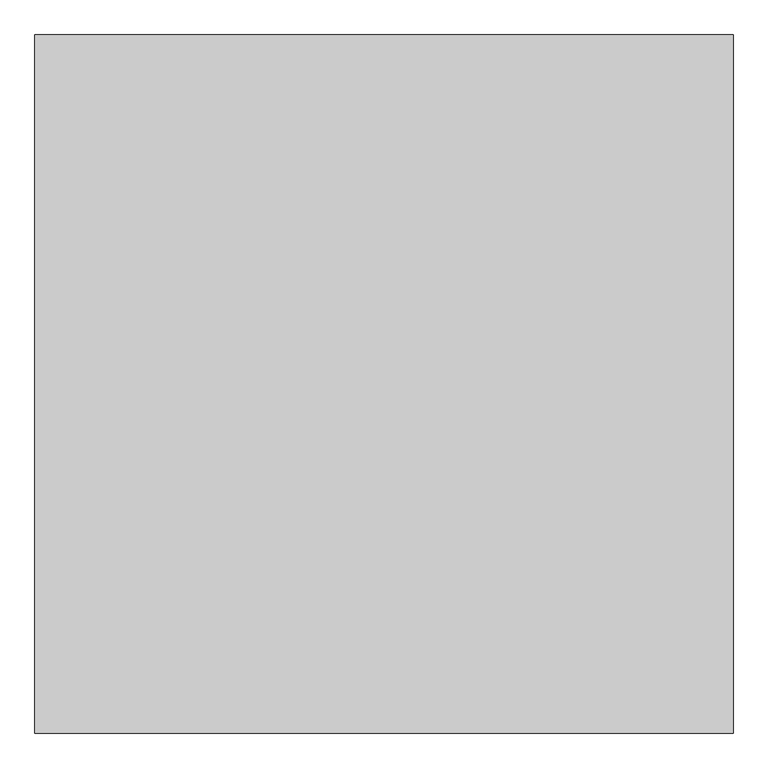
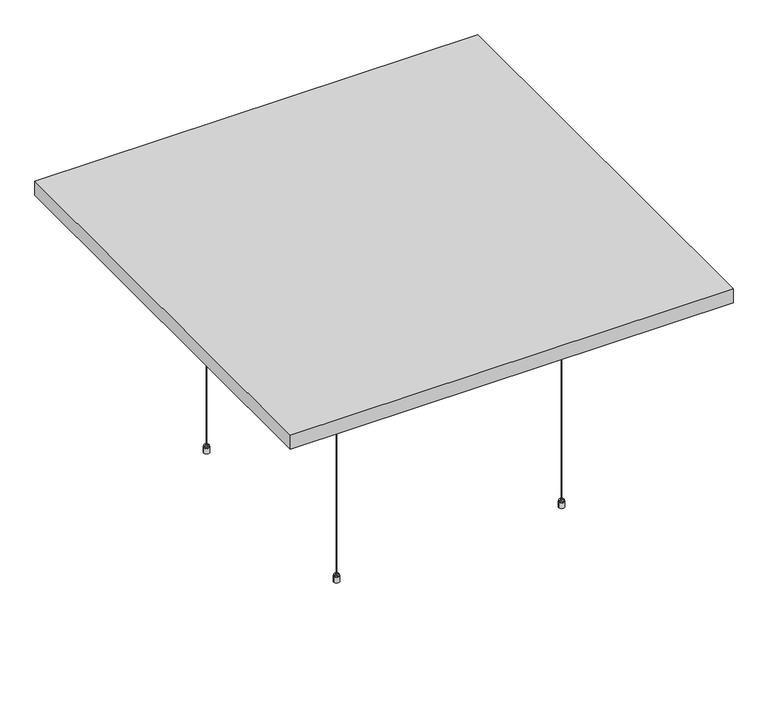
"""IFC4 building model written with IfcOpenShell, lengths in millimetres: proxy geometry, OWA Selecta : Selecta one."""

from ifc_helpers import new_model, si_unit, point, frame, frame_2d, origin, place, context, project, spatial, polyline, circle_curve, trimmed, segment, composite_curve, outline, extrude, source, transform, mapped, element, save
from ifc_brep_helpers import plane_surface, cylinder_surface, revolved_surface, advanced_brep


def specialty_equipment_e558b074(model_context):
    return source(origin(), model_context, "Body", "SolidModel", [
        advanced_brep(
        [(-738.5, -305.0, 0.0), (-746.2406175, -305.0, 0.0), (-730.7593825, -305.0, 0.0), (-746.2406175, -305.0, 15.0), (-730.7593825, -305.0, 15.0), (-745.3156175, -305.0, 15.0), (-731.6843825, -305.0, 15.0), (-745.3156175, -305.0, 19.0), (-731.6843825, -305.0, 19.0), (-740.5656175, -305.0, 19.0), (-736.4343825, -305.0, 19.0), (-740.5656175, -305.0, 22.546183), (-736.4343825, -305.0, 22.546183), (-738.5, -305.0, 22.546183)],
        [
            (0, 1),
            (1, 2, circle_curve(frame((-738.5, -305.0, 0.0), z_axis=(0.0, 0.0, -1.0), x_axis=(-1.0, 0.0, 0.0)), 7.7406175)),
            (2, 0),
            (2, 1, circle_curve(frame((-738.5, -305.0, 0.0), z_axis=(0.0, 0.0, -1.0), x_axis=(-1.0, 0.0, 0.0)), 7.7406175)),
            (1, 3),
            (3, 4, circle_curve(frame((-738.5, -305.0, 15.0), z_axis=(0.0, 0.0, -1.0), x_axis=(-1.0, 0.0, 0.0)), 7.7406175)),
            (4, 2),
            (4, 3, circle_curve(frame((-738.5, -305.0, 15.0), z_axis=(0.0, 0.0, -1.0), x_axis=(-1.0, 0.0, 0.0)), 7.7406175)),
            (3, 5),
            (5, 6, circle_curve(frame((-738.5, -305.0, 15.0), z_axis=(0.0, 0.0, -1.0), x_axis=(-1.0, 0.0, 0.0)), 6.8156175)),
            (6, 4),
            (6, 5, circle_curve(frame((-738.5, -305.0, 15.0), z_axis=(0.0, 0.0, -1.0), x_axis=(-1.0, 0.0, 0.0)), 6.8156175)),
            (5, 7),
            (7, 8, circle_curve(frame((-738.5, -305.0, 19.0), z_axis=(0.0, 0.0, -1.0), x_axis=(-1.0, 0.0, 0.0)), 6.8156175)),
            (8, 6),
            (8, 7, circle_curve(frame((-738.5, -305.0, 19.0), z_axis=(0.0, 0.0, -1.0), x_axis=(-1.0, 0.0, 0.0)), 6.8156175)),
            (7, 9),
            (9, 10, circle_curve(frame((-738.5, -305.0, 19.0), z_axis=(0.0, 0.0, -1.0), x_axis=(-1.0, 0.0, 0.0)), 2.0656175)),
            (10, 8),
            (10, 9, circle_curve(frame((-738.5, -305.0, 19.0), z_axis=(0.0, 0.0, -1.0), x_axis=(-1.0, 0.0, 0.0)), 2.0656175)),
            (9, 11),
            (11, 12, circle_curve(frame((-738.5, -305.0, 22.546183), z_axis=(0.0, 0.0, -1.0), x_axis=(-1.0, 0.0, 0.0)), 2.0656175)),
            (12, 10),
            (12, 11, circle_curve(frame((-738.5, -305.0, 22.546183), z_axis=(0.0, 0.0, -1.0), x_axis=(-1.0, 0.0, 0.0)), 2.0656175)),
            (11, 13),
            (13, 12),
        ],
        [
            plane_surface(frame((-738.5, -305.0, 0.0), z_axis=(0.0, 0.0, -1.0), x_axis=(-1.0, 0.0, 0.0))),
            cylinder_surface(frame((-738.5, -305.0, -10.0), z_axis=(0.0, 0.0, -1.0), x_axis=(-1.0, 0.0, 0.0)), 7.7406175),
            plane_surface(frame((-738.5, -305.0, 15.0), z_axis=(0.0, 0.0, 1.0), x_axis=(-1.0, 0.0, 0.0))),
            cylinder_surface(frame((-738.5, -305.0, -10.0), z_axis=(0.0, 0.0, -1.0), x_axis=(-1.0, 0.0, 0.0)), 6.8156175),
            plane_surface(frame((-738.5, -305.0, 19.0), z_axis=(0.0, 0.0, 1.0), x_axis=(-1.0, 0.0, 0.0))),
            cylinder_surface(frame((-738.5, -305.0, -10.0), z_axis=(0.0, 0.0, -1.0), x_axis=(-1.0, 0.0, 0.0)), 2.0656175),
            plane_surface(frame((-738.5, -305.0, 22.546183), z_axis=(0.0, 0.0, 1.0), x_axis=(-1.0, 0.0, 0.0))),
        ],
        [
            (0, [[1, 2, 3]]),
            (0, [[-3, 4, -1]]),
            (1, [[-2, 5, 6, 7]]),
            (1, [[-4, -7, 8, -5]]),
            (2, [[-6, 9, 10, 11]]),
            (2, [[-8, -11, 12, -9]]),
            (3, [[-10, 13, 14, 15]]),
            (3, [[-12, -15, 16, -13]]),
            (4, [[-14, 17, 18, 19]]),
            (4, [[-16, -19, 20, -17]]),
            (5, [[-18, 21, 22, 23]]),
            (5, [[-20, -23, 24, -21]]),
            (6, [[-22, 25, 26]]),
            (6, [[-24, -26, -25]]),
        ],
    ),
        advanced_brep(
        [(-736.2615389, -305.0, 628.8211737), (-740.7384611, -305.0, 628.8211737), (-740.8660547, -305.0, 632.8711737), (-736.1339453, -305.0, 632.8711737), (-743.3660547, -305.0, 632.8711737), (-733.6339453, -305.0, 632.8711737), (-743.3660547, -305.0, 658.1211737), (-733.6339453, -305.0, 658.1211737), (-754.3660547, -305.0, 658.1211737), (-722.6339453, -305.0, 658.1211737), (-754.3660547, -305.0, 660.0), (-722.6339453, -305.0, 660.0), (-738.5, -305.0, 660.0), (-738.5, -305.0, 628.8211737)],
        [
            (0, 1, circle_curve(frame((-738.5, -305.0, 628.8211737), z_axis=(0.0, 0.0, 1.0), x_axis=(-1.0, 0.0, 0.0)), 2.2384611)),
            (1, 2),
            (2, 3, circle_curve(frame((-738.5, -305.0, 632.8711737), z_axis=(0.0, 0.0, -1.0), x_axis=(-1.0, 0.0, 0.0)), 2.3660547)),
            (3, 0),
            (1, 0, circle_curve(frame((-738.5, -305.0, 628.8211737), z_axis=(0.0, 0.0, 1.0), x_axis=(-1.0, 0.0, 0.0)), 2.2384611)),
            (3, 2, circle_curve(frame((-738.5, -305.0, 632.8711737), z_axis=(0.0, 0.0, -1.0), x_axis=(-1.0, 0.0, 0.0)), 2.3660547)),
            (2, 4),
            (4, 5, circle_curve(frame((-738.5, -305.0, 632.8711737), z_axis=(0.0, 0.0, -1.0), x_axis=(-1.0, 0.0, 0.0)), 4.8660547)),
            (5, 3),
            (5, 4, circle_curve(frame((-738.5, -305.0, 632.8711737), z_axis=(0.0, 0.0, -1.0), x_axis=(-1.0, 0.0, 0.0)), 4.8660547)),
            (4, 6),
            (6, 7, circle_curve(frame((-738.5, -305.0, 658.1211737), z_axis=(0.0, 0.0, -1.0), x_axis=(-1.0, 0.0, 0.0)), 4.8660547)),
            (7, 5),
            (7, 6, circle_curve(frame((-738.5, -305.0, 658.1211737), z_axis=(0.0, 0.0, -1.0), x_axis=(-1.0, 0.0, 0.0)), 4.8660547)),
            (6, 8),
            (8, 9, circle_curve(frame((-738.5, -305.0, 658.1211737), z_axis=(0.0, 0.0, -1.0), x_axis=(-1.0, 0.0, 0.0)), 15.8660547)),
            (9, 7),
            (9, 8, circle_curve(frame((-738.5, -305.0, 658.1211737), z_axis=(0.0, 0.0, -1.0), x_axis=(-1.0, 0.0, 0.0)), 15.8660547)),
            (8, 10),
            (10, 11, circle_curve(frame((-738.5, -305.0, 660.0), z_axis=(0.0, 0.0, -1.0), x_axis=(-1.0, 0.0, 0.0)), 15.8660547)),
            (11, 9),
            (11, 10, circle_curve(frame((-738.5, -305.0, 660.0), z_axis=(0.0, 0.0, -1.0), x_axis=(-1.0, 0.0, 0.0)), 15.8660547)),
            (10, 12),
            (12, 11),
            (13, 1),
            (0, 13),
        ],
        [
            revolved_surface(polyline([(-740.8660547, -305.0, 632.8711737), (-740.7384611, -305.0, 628.8211737)]), (-738.5, -305.0, 661.8401096), (0.0, 0.0, -1.0)),
            plane_surface(frame((-738.5, -305.0, 632.8711737), z_axis=(0.0, 0.0, -1.0), x_axis=(-1.0, 0.0, 0.0))),
            cylinder_surface(frame((-738.5, -305.0, 661.8401096), z_axis=(0.0, 0.0, -1.0), x_axis=(-1.0, 0.0, 0.0)), 4.8660547),
            plane_surface(frame((-738.5, -305.0, 658.1211737), z_axis=(0.0, 0.0, -1.0), x_axis=(-1.0, 0.0, 0.0))),
            cylinder_surface(frame((-738.5, -305.0, 661.8401096), z_axis=(0.0, 0.0, -1.0), x_axis=(-1.0, 0.0, 0.0)), 15.8660547),
            plane_surface(frame((-738.5, -305.0, 660.0), z_axis=(0.0, 0.0, 1.0), x_axis=(-1.0, 0.0, 0.0))),
            plane_surface(frame((-738.5, -305.0, 628.8211737), z_axis=(0.0, 0.0, -1.0), x_axis=(-1.0, 0.0, 0.0))),
        ],
        [
            (0, [[1, 2, 3, 4]]),
            (0, [[5, -4, 6, -2]]),
            (1, [[-3, 7, 8, 9]]),
            (1, [[-6, -9, 10, -7]]),
            (2, [[-8, 11, 12, 13]]),
            (2, [[-10, -13, 14, -11]]),
            (3, [[-12, 15, 16, 17]]),
            (3, [[-14, -17, 18, -15]]),
            (4, [[-16, 19, 20, 21]]),
            (4, [[-18, -21, 22, -19]]),
            (5, [[-20, 23, 24]]),
            (5, [[-22, -24, -23]]),
            (6, [[25, -1, 26]]),
            (6, [[-26, -5, -25]]),
        ],
    ),
        extrude(outline(composite_curve([segment(trimmed(circle_curve(frame_2d((-738.5, -305.0)), 1.0), [point((-739.5, -305.0))], [point((-737.5, -305.0))], False, "CARTESIAN"), True, "CONTINUOUS"), segment(trimmed(circle_curve(frame_2d((-738.5, -305.0)), 1.0), [point((-737.5, -305.0))], [point((-739.5, -305.0))], False, "CARTESIAN"), True, "CONTINUOUS")], self_intersect=False)), frame((0.0, 0.0, 22.546183), z_axis=(0.0, 0.0, 1.0), x_axis=(1.0, 0.0, 0.0)), (0.0, 0.0, 1.0), 606.2749908),
        advanced_brep(
        [(-128.5, -305.0, 0.0), (-136.2406175, -305.0, 0.0), (-120.7593825, -305.0, 0.0), (-136.2406175, -305.0, 15.0), (-120.7593825, -305.0, 15.0), (-135.3156175, -305.0, 15.0), (-121.6843825, -305.0, 15.0), (-135.3156175, -305.0, 19.0), (-121.6843825, -305.0, 19.0), (-130.5656175, -305.0, 19.0), (-126.4343825, -305.0, 19.0), (-130.5656175, -305.0, 22.546183), (-126.4343825, -305.0, 22.546183), (-128.5, -305.0, 22.546183)],
        [
            (0, 1),
            (1, 2, circle_curve(frame((-128.5, -305.0, 0.0), z_axis=(0.0, 0.0, -1.0), x_axis=(1.0, 0.0, 0.0)), 7.7406175)),
            (2, 0),
            (2, 1, circle_curve(frame((-128.5, -305.0, 0.0), z_axis=(0.0, 0.0, -1.0), x_axis=(1.0, 0.0, 0.0)), 7.7406175)),
            (1, 3),
            (3, 4, circle_curve(frame((-128.5, -305.0, 15.0), z_axis=(0.0, 0.0, -1.0), x_axis=(1.0, 0.0, 0.0)), 7.7406175)),
            (4, 2),
            (4, 3, circle_curve(frame((-128.5, -305.0, 15.0), z_axis=(0.0, 0.0, -1.0), x_axis=(1.0, 0.0, 0.0)), 7.7406175)),
            (3, 5),
            (5, 6, circle_curve(frame((-128.5, -305.0, 15.0), z_axis=(0.0, 0.0, -1.0), x_axis=(1.0, 0.0, 0.0)), 6.8156175)),
            (6, 4),
            (6, 5, circle_curve(frame((-128.5, -305.0, 15.0), z_axis=(0.0, 0.0, -1.0), x_axis=(1.0, 0.0, 0.0)), 6.8156175)),
            (5, 7),
            (7, 8, circle_curve(frame((-128.5, -305.0, 19.0), z_axis=(0.0, 0.0, -1.0), x_axis=(1.0, 0.0, 0.0)), 6.8156175)),
            (8, 6),
            (8, 7, circle_curve(frame((-128.5, -305.0, 19.0), z_axis=(0.0, 0.0, -1.0), x_axis=(1.0, 0.0, 0.0)), 6.8156175)),
            (7, 9),
            (9, 10, circle_curve(frame((-128.5, -305.0, 19.0), z_axis=(0.0, 0.0, -1.0), x_axis=(1.0, 0.0, 0.0)), 2.0656175)),
            (10, 8),
            (10, 9, circle_curve(frame((-128.5, -305.0, 19.0), z_axis=(0.0, 0.0, -1.0), x_axis=(1.0, 0.0, 0.0)), 2.0656175)),
            (9, 11),
            (11, 12, circle_curve(frame((-128.5, -305.0, 22.546183), z_axis=(0.0, 0.0, -1.0), x_axis=(1.0, 0.0, 0.0)), 2.0656175)),
            (12, 10),
            (12, 11, circle_curve(frame((-128.5, -305.0, 22.546183), z_axis=(0.0, 0.0, -1.0), x_axis=(1.0, 0.0, 0.0)), 2.0656175)),
            (11, 13),
            (13, 12),
        ],
        [
            plane_surface(frame((-128.5, -305.0, 0.0), z_axis=(0.0, 0.0, -1.0), x_axis=(1.0, 0.0, 0.0))),
            cylinder_surface(frame((-128.5, -305.0, -10.0), z_axis=(0.0, 0.0, -1.0), x_axis=(1.0, 0.0, 0.0)), 7.7406175),
            plane_surface(frame((-128.5, -305.0, 15.0), z_axis=(0.0, 0.0, 1.0), x_axis=(1.0, 0.0, 0.0))),
            cylinder_surface(frame((-128.5, -305.0, -10.0), z_axis=(0.0, 0.0, -1.0), x_axis=(1.0, 0.0, 0.0)), 6.8156175),
            plane_surface(frame((-128.5, -305.0, 19.0), z_axis=(0.0, 0.0, 1.0), x_axis=(1.0, 0.0, 0.0))),
            cylinder_surface(frame((-128.5, -305.0, -10.0), z_axis=(0.0, 0.0, -1.0), x_axis=(1.0, 0.0, 0.0)), 2.0656175),
            plane_surface(frame((-128.5, -305.0, 22.546183), z_axis=(0.0, 0.0, 1.0), x_axis=(1.0, 0.0, 0.0))),
        ],
        [
            (0, [[1, 2, 3]]),
            (0, [[-3, 4, -1]]),
            (1, [[5, 6, 7, -2]]),
            (1, [[-7, 8, -5, -4]]),
            (2, [[9, 10, 11, -6]]),
            (2, [[-11, 12, -9, -8]]),
            (3, [[13, 14, 15, -10]]),
            (3, [[-15, 16, -13, -12]]),
            (4, [[17, 18, 19, -14]]),
            (4, [[-19, 20, -17, -16]]),
            (5, [[21, 22, 23, -18]]),
            (5, [[-23, 24, -21, -20]]),
            (6, [[25, 26, -22]]),
            (6, [[-26, -25, -24]]),
        ],
    ),
        advanced_brep(
        [(-130.7384611, -305.0, 628.8211737), (-130.8660547, -305.0, 632.8711737), (-126.1339453, -305.0, 632.8711737), (-126.2615389, -305.0, 628.8211737), (-133.3660547, -305.0, 632.8711737), (-123.6339453, -305.0, 632.8711737), (-133.3660547, -305.0, 658.1211737), (-123.6339453, -305.0, 658.1211737), (-144.3660547, -305.0, 658.1211737), (-112.6339453, -305.0, 658.1211737), (-144.3660547, -305.0, 660.0), (-112.6339453, -305.0, 660.0), (-128.5, -305.0, 660.0), (-128.5, -305.0, 628.8211737)],
        [
            (0, 1),
            (1, 2, circle_curve(frame((-128.5, -305.0, 632.8711737), z_axis=(0.0, 0.0, -1.0), x_axis=(1.0, 0.0, 0.0)), 2.3660547)),
            (2, 3),
            (3, 0, circle_curve(frame((-128.5, -305.0, 628.8211737), z_axis=(0.0, 0.0, 1.0), x_axis=(1.0, 0.0, 0.0)), 2.2384611)),
            (2, 1, circle_curve(frame((-128.5, -305.0, 632.8711737), z_axis=(0.0, 0.0, -1.0), x_axis=(1.0, 0.0, 0.0)), 2.3660547)),
            (0, 3, circle_curve(frame((-128.5, -305.0, 628.8211737), z_axis=(0.0, 0.0, 1.0), x_axis=(1.0, 0.0, 0.0)), 2.2384611)),
            (1, 4),
            (4, 5, circle_curve(frame((-128.5, -305.0, 632.8711737), z_axis=(0.0, 0.0, -1.0), x_axis=(1.0, 0.0, 0.0)), 4.8660547)),
            (5, 2),
            (5, 4, circle_curve(frame((-128.5, -305.0, 632.8711737), z_axis=(0.0, 0.0, -1.0), x_axis=(1.0, 0.0, 0.0)), 4.8660547)),
            (4, 6),
            (6, 7, circle_curve(frame((-128.5, -305.0, 658.1211737), z_axis=(0.0, 0.0, -1.0), x_axis=(1.0, 0.0, 0.0)), 4.8660547)),
            (7, 5),
            (7, 6, circle_curve(frame((-128.5, -305.0, 658.1211737), z_axis=(0.0, 0.0, -1.0), x_axis=(1.0, 0.0, 0.0)), 4.8660547)),
            (6, 8),
            (8, 9, circle_curve(frame((-128.5, -305.0, 658.1211737), z_axis=(0.0, 0.0, -1.0), x_axis=(1.0, 0.0, 0.0)), 15.8660547)),
            (9, 7),
            (9, 8, circle_curve(frame((-128.5, -305.0, 658.1211737), z_axis=(0.0, 0.0, -1.0), x_axis=(1.0, 0.0, 0.0)), 15.8660547)),
            (8, 10),
            (10, 11, circle_curve(frame((-128.5, -305.0, 660.0), z_axis=(0.0, 0.0, -1.0), x_axis=(1.0, 0.0, 0.0)), 15.8660547)),
            (11, 9),
            (11, 10, circle_curve(frame((-128.5, -305.0, 660.0), z_axis=(0.0, 0.0, -1.0), x_axis=(1.0, 0.0, 0.0)), 15.8660547)),
            (10, 12),
            (12, 11),
            (13, 0),
            (3, 13),
        ],
        [
            revolved_surface(polyline([(-126.1339453, -305.0, 632.8711737), (-126.2615389, -305.0, 628.8211737)]), (-128.5, -305.0, 661.8401096), (0.0, 0.0, -1.0)),
            plane_surface(frame((-128.5, -305.0, 632.8711737), z_axis=(0.0, 0.0, -1.0), x_axis=(1.0, 0.0, 0.0))),
            cylinder_surface(frame((-128.5, -305.0, 661.8401096), z_axis=(0.0, 0.0, -1.0), x_axis=(1.0, 0.0, 0.0)), 4.8660547),
            plane_surface(frame((-128.5, -305.0, 658.1211737), z_axis=(0.0, 0.0, -1.0), x_axis=(1.0, 0.0, 0.0))),
            cylinder_surface(frame((-128.5, -305.0, 661.8401096), z_axis=(0.0, 0.0, -1.0), x_axis=(1.0, 0.0, 0.0)), 15.8660547),
            plane_surface(frame((-128.5, -305.0, 660.0), z_axis=(0.0, 0.0, 1.0), x_axis=(1.0, 0.0, 0.0))),
            plane_surface(frame((-128.5, -305.0, 628.8211737), z_axis=(0.0, 0.0, -1.0), x_axis=(1.0, 0.0, 0.0))),
        ],
        [
            (0, [[1, 2, 3, 4]]),
            (0, [[-3, 5, -1, 6]]),
            (1, [[7, 8, 9, -2]]),
            (1, [[-9, 10, -7, -5]]),
            (2, [[11, 12, 13, -8]]),
            (2, [[-13, 14, -11, -10]]),
            (3, [[15, 16, 17, -12]]),
            (3, [[-17, 18, -15, -14]]),
            (4, [[19, 20, 21, -16]]),
            (4, [[-21, 22, -19, -18]]),
            (5, [[23, 24, -20]]),
            (5, [[-24, -23, -22]]),
            (6, [[25, -4, 26]]),
            (6, [[-26, -6, -25]]),
        ],
    ),
        extrude(outline(composite_curve([segment(trimmed(circle_curve(frame_2d((-128.5, -305.0)), 1.0), [point((-127.5, -305.0))], [point((-129.5, -305.0))], False, "CARTESIAN"), True, "CONTINUOUS"), segment(trimmed(circle_curve(frame_2d((-128.5, -305.0)), 1.0), [point((-129.5, -305.0))], [point((-127.5, -305.0))], False, "CARTESIAN"), True, "CONTINUOUS")], self_intersect=False)), frame((0.0, 0.0, 22.546183), z_axis=(0.0, 0.0, 1.0), x_axis=(1.0, 0.0, 0.0)), (0.0, 0.0, 1.0), 606.2749908),
        advanced_brep(
        [(-128.5, 305.0, 0.0), (-120.7593825, 305.0, 0.0), (-136.2406175, 305.0, 0.0), (-120.7593825, 305.0, 15.0), (-136.2406175, 305.0, 15.0), (-121.6843825, 305.0, 15.0), (-135.3156175, 305.0, 15.0), (-121.6843825, 305.0, 19.0), (-135.3156175, 305.0, 19.0), (-126.4343825, 305.0, 19.0), (-130.5656175, 305.0, 19.0), (-126.4343825, 305.0, 22.546183), (-130.5656175, 305.0, 22.546183), (-128.5, 305.0, 22.546183)],
        [
            (0, 1),
            (1, 2, circle_curve(frame((-128.5, 305.0, 0.0), z_axis=(0.0, 0.0, -1.0), x_axis=(1.0, 0.0, 0.0)), 7.7406175)),
            (2, 0),
            (2, 1, circle_curve(frame((-128.5, 305.0, 0.0), z_axis=(0.0, 0.0, -1.0), x_axis=(1.0, 0.0, 0.0)), 7.7406175)),
            (1, 3),
            (3, 4, circle_curve(frame((-128.5, 305.0, 15.0), z_axis=(0.0, 0.0, -1.0), x_axis=(1.0, 0.0, 0.0)), 7.7406175)),
            (4, 2),
            (4, 3, circle_curve(frame((-128.5, 305.0, 15.0), z_axis=(0.0, 0.0, -1.0), x_axis=(1.0, 0.0, 0.0)), 7.7406175)),
            (3, 5),
            (5, 6, circle_curve(frame((-128.5, 305.0, 15.0), z_axis=(0.0, 0.0, -1.0), x_axis=(1.0, 0.0, 0.0)), 6.8156175)),
            (6, 4),
            (6, 5, circle_curve(frame((-128.5, 305.0, 15.0), z_axis=(0.0, 0.0, -1.0), x_axis=(1.0, 0.0, 0.0)), 6.8156175)),
            (5, 7),
            (7, 8, circle_curve(frame((-128.5, 305.0, 19.0), z_axis=(0.0, 0.0, -1.0), x_axis=(1.0, 0.0, 0.0)), 6.8156175)),
            (8, 6),
            (8, 7, circle_curve(frame((-128.5, 305.0, 19.0), z_axis=(0.0, 0.0, -1.0), x_axis=(1.0, 0.0, 0.0)), 6.8156175)),
            (7, 9),
            (9, 10, circle_curve(frame((-128.5, 305.0, 19.0), z_axis=(0.0, 0.0, -1.0), x_axis=(1.0, 0.0, 0.0)), 2.0656175)),
            (10, 8),
            (10, 9, circle_curve(frame((-128.5, 305.0, 19.0), z_axis=(0.0, 0.0, -1.0), x_axis=(1.0, 0.0, 0.0)), 2.0656175)),
            (9, 11),
            (11, 12, circle_curve(frame((-128.5, 305.0, 22.546183), z_axis=(0.0, 0.0, -1.0), x_axis=(1.0, 0.0, 0.0)), 2.0656175)),
            (12, 10),
            (12, 11, circle_curve(frame((-128.5, 305.0, 22.546183), z_axis=(0.0, 0.0, -1.0), x_axis=(1.0, 0.0, 0.0)), 2.0656175)),
            (11, 13),
            (13, 12),
        ],
        [
            plane_surface(frame((-128.5, 305.0, 0.0), z_axis=(0.0, 0.0, -1.0), x_axis=(1.0, 0.0, 0.0))),
            cylinder_surface(frame((-128.5, 305.0, -10.0), z_axis=(0.0, 0.0, -1.0), x_axis=(1.0, 0.0, 0.0)), 7.7406175),
            plane_surface(frame((-128.5, 305.0, 15.0), z_axis=(0.0, 0.0, 1.0), x_axis=(1.0, 0.0, 0.0))),
            cylinder_surface(frame((-128.5, 305.0, -10.0), z_axis=(0.0, 0.0, -1.0), x_axis=(1.0, 0.0, 0.0)), 6.8156175),
            plane_surface(frame((-128.5, 305.0, 19.0), z_axis=(0.0, 0.0, 1.0), x_axis=(1.0, 0.0, 0.0))),
            cylinder_surface(frame((-128.5, 305.0, -10.0), z_axis=(0.0, 0.0, -1.0), x_axis=(1.0, 0.0, 0.0)), 2.0656175),
            plane_surface(frame((-128.5, 305.0, 22.546183), z_axis=(0.0, 0.0, 1.0), x_axis=(1.0, 0.0, 0.0))),
        ],
        [
            (0, [[1, 2, 3]]),
            (0, [[-3, 4, -1]]),
            (1, [[-2, 5, 6, 7]]),
            (1, [[-4, -7, 8, -5]]),
            (2, [[-6, 9, 10, 11]]),
            (2, [[-8, -11, 12, -9]]),
            (3, [[-10, 13, 14, 15]]),
            (3, [[-12, -15, 16, -13]]),
            (4, [[-14, 17, 18, 19]]),
            (4, [[-16, -19, 20, -17]]),
            (5, [[-18, 21, 22, 23]]),
            (5, [[-20, -23, 24, -21]]),
            (6, [[-22, 25, 26]]),
            (6, [[-24, -26, -25]]),
        ],
    ),
        advanced_brep(
        [(-130.7384611, 305.0, 628.8211737), (-126.2615389, 305.0, 628.8211737), (-126.1339453, 305.0, 632.8711737), (-130.8660547, 305.0, 632.8711737), (-123.6339453, 305.0, 632.8711737), (-133.3660547, 305.0, 632.8711737), (-123.6339453, 305.0, 658.1211737), (-133.3660547, 305.0, 658.1211737), (-112.6339453, 305.0, 658.1211737), (-144.3660547, 305.0, 658.1211737), (-112.6339453, 305.0, 660.0), (-144.3660547, 305.0, 660.0), (-128.5, 305.0, 660.0), (-128.5, 305.0, 628.8211737)],
        [
            (0, 1, circle_curve(frame((-128.5, 305.0, 628.8211737), z_axis=(0.0, 0.0, 1.0), x_axis=(1.0, 0.0, 0.0)), 2.2384611)),
            (1, 2),
            (2, 3, circle_curve(frame((-128.5, 305.0, 632.8711737), z_axis=(0.0, 0.0, -1.0), x_axis=(1.0, 0.0, 0.0)), 2.3660547)),
            (3, 0),
            (1, 0, circle_curve(frame((-128.5, 305.0, 628.8211737), z_axis=(0.0, 0.0, 1.0), x_axis=(1.0, 0.0, 0.0)), 2.2384611)),
            (3, 2, circle_curve(frame((-128.5, 305.0, 632.8711737), z_axis=(0.0, 0.0, -1.0), x_axis=(1.0, 0.0, 0.0)), 2.3660547)),
            (2, 4),
            (4, 5, circle_curve(frame((-128.5, 305.0, 632.8711737), z_axis=(0.0, 0.0, -1.0), x_axis=(1.0, 0.0, 0.0)), 4.8660547)),
            (5, 3),
            (5, 4, circle_curve(frame((-128.5, 305.0, 632.8711737), z_axis=(0.0, 0.0, -1.0), x_axis=(1.0, 0.0, 0.0)), 4.8660547)),
            (4, 6),
            (6, 7, circle_curve(frame((-128.5, 305.0, 658.1211737), z_axis=(0.0, 0.0, -1.0), x_axis=(1.0, 0.0, 0.0)), 4.8660547)),
            (7, 5),
            (7, 6, circle_curve(frame((-128.5, 305.0, 658.1211737), z_axis=(0.0, 0.0, -1.0), x_axis=(1.0, 0.0, 0.0)), 4.8660547)),
            (6, 8),
            (8, 9, circle_curve(frame((-128.5, 305.0, 658.1211737), z_axis=(0.0, 0.0, -1.0), x_axis=(1.0, 0.0, 0.0)), 15.8660547)),
            (9, 7),
            (9, 8, circle_curve(frame((-128.5, 305.0, 658.1211737), z_axis=(0.0, 0.0, -1.0), x_axis=(1.0, 0.0, 0.0)), 15.8660547)),
            (8, 10),
            (10, 11, circle_curve(frame((-128.5, 305.0, 660.0), z_axis=(0.0, 0.0, -1.0), x_axis=(1.0, 0.0, 0.0)), 15.8660547)),
            (11, 9),
            (11, 10, circle_curve(frame((-128.5, 305.0, 660.0), z_axis=(0.0, 0.0, -1.0), x_axis=(1.0, 0.0, 0.0)), 15.8660547)),
            (10, 12),
            (12, 11),
            (13, 1),
            (0, 13),
        ],
        [
            revolved_surface(polyline([(-126.1339453, 305.0, 632.8711737), (-126.2615389, 305.0, 628.8211737)]), (-128.5, 305.0, 661.8401096), (0.0, 0.0, -1.0)),
            plane_surface(frame((-128.5, 305.0, 632.8711737), z_axis=(0.0, 0.0, -1.0), x_axis=(1.0, 0.0, 0.0))),
            cylinder_surface(frame((-128.5, 305.0, 661.8401096), z_axis=(0.0, 0.0, -1.0), x_axis=(1.0, 0.0, 0.0)), 4.8660547),
            plane_surface(frame((-128.5, 305.0, 658.1211737), z_axis=(0.0, 0.0, -1.0), x_axis=(1.0, 0.0, 0.0))),
            cylinder_surface(frame((-128.5, 305.0, 661.8401096), z_axis=(0.0, 0.0, -1.0), x_axis=(1.0, 0.0, 0.0)), 15.8660547),
            plane_surface(frame((-128.5, 305.0, 660.0), z_axis=(0.0, 0.0, 1.0), x_axis=(1.0, 0.0, 0.0))),
            plane_surface(frame((-128.5, 305.0, 628.8211737), z_axis=(0.0, 0.0, -1.0), x_axis=(1.0, 0.0, 0.0))),
        ],
        [
            (0, [[1, 2, 3, 4]]),
            (0, [[5, -4, 6, -2]]),
            (1, [[-3, 7, 8, 9]]),
            (1, [[-6, -9, 10, -7]]),
            (2, [[-8, 11, 12, 13]]),
            (2, [[-10, -13, 14, -11]]),
            (3, [[-12, 15, 16, 17]]),
            (3, [[-14, -17, 18, -15]]),
            (4, [[-16, 19, 20, 21]]),
            (4, [[-18, -21, 22, -19]]),
            (5, [[-20, 23, 24]]),
            (5, [[-22, -24, -23]]),
            (6, [[25, -1, 26]]),
            (6, [[-26, -5, -25]]),
        ],
    ),
        extrude(outline(composite_curve([segment(trimmed(circle_curve(frame_2d((-128.5, 305.0)), 1.0), [point((-127.5, 305.0))], [point((-129.5, 305.0))], False, "CARTESIAN"), True, "CONTINUOUS"), segment(trimmed(circle_curve(frame_2d((-128.5, 305.0)), 1.0), [point((-129.5, 305.0))], [point((-127.5, 305.0))], False, "CARTESIAN"), True, "CONTINUOUS")], self_intersect=False)), frame((0.0, 0.0, 22.546183), z_axis=(0.0, 0.0, 1.0), x_axis=(1.0, 0.0, 0.0)), (0.0, 0.0, 1.0), 606.2749908),
        advanced_brep(
        [(-738.5, 305.0, 0.0), (-730.7593825, 305.0, 0.0), (-746.2406175, 305.0, 0.0), (-730.7593825, 305.0, 15.0), (-746.2406175, 305.0, 15.0), (-731.6843825, 305.0, 15.0), (-745.3156175, 305.0, 15.0), (-731.6843825, 305.0, 19.0), (-745.3156175, 305.0, 19.0), (-736.4343825, 305.0, 19.0), (-740.5656175, 305.0, 19.0), (-736.4343825, 305.0, 22.546183), (-740.5656175, 305.0, 22.546183), (-738.5, 305.0, 22.546183)],
        [
            (0, 1),
            (1, 2, circle_curve(frame((-738.5, 305.0, 0.0), z_axis=(0.0, 0.0, -1.0), x_axis=(-1.0, 0.0, 0.0)), 7.7406175)),
            (2, 0),
            (2, 1, circle_curve(frame((-738.5, 305.0, 0.0), z_axis=(0.0, 0.0, -1.0), x_axis=(-1.0, 0.0, 0.0)), 7.7406175)),
            (1, 3),
            (3, 4, circle_curve(frame((-738.5, 305.0, 15.0), z_axis=(0.0, 0.0, -1.0), x_axis=(-1.0, 0.0, 0.0)), 7.7406175)),
            (4, 2),
            (4, 3, circle_curve(frame((-738.5, 305.0, 15.0), z_axis=(0.0, 0.0, -1.0), x_axis=(-1.0, 0.0, 0.0)), 7.7406175)),
            (3, 5),
            (5, 6, circle_curve(frame((-738.5, 305.0, 15.0), z_axis=(0.0, 0.0, -1.0), x_axis=(-1.0, 0.0, 0.0)), 6.8156175)),
            (6, 4),
            (6, 5, circle_curve(frame((-738.5, 305.0, 15.0), z_axis=(0.0, 0.0, -1.0), x_axis=(-1.0, 0.0, 0.0)), 6.8156175)),
            (5, 7),
            (7, 8, circle_curve(frame((-738.5, 305.0, 19.0), z_axis=(0.0, 0.0, -1.0), x_axis=(-1.0, 0.0, 0.0)), 6.8156175)),
            (8, 6),
            (8, 7, circle_curve(frame((-738.5, 305.0, 19.0), z_axis=(0.0, 0.0, -1.0), x_axis=(-1.0, 0.0, 0.0)), 6.8156175)),
            (7, 9),
            (9, 10, circle_curve(frame((-738.5, 305.0, 19.0), z_axis=(0.0, 0.0, -1.0), x_axis=(-1.0, 0.0, 0.0)), 2.0656175)),
            (10, 8),
            (10, 9, circle_curve(frame((-738.5, 305.0, 19.0), z_axis=(0.0, 0.0, -1.0), x_axis=(-1.0, 0.0, 0.0)), 2.0656175)),
            (9, 11),
            (11, 12, circle_curve(frame((-738.5, 305.0, 22.546183), z_axis=(0.0, 0.0, -1.0), x_axis=(-1.0, 0.0, 0.0)), 2.0656175)),
            (12, 10),
            (12, 11, circle_curve(frame((-738.5, 305.0, 22.546183), z_axis=(0.0, 0.0, -1.0), x_axis=(-1.0, 0.0, 0.0)), 2.0656175)),
            (11, 13),
            (13, 12),
        ],
        [
            plane_surface(frame((-738.5, 305.0, 0.0), z_axis=(0.0, 0.0, -1.0), x_axis=(-1.0, 0.0, 0.0))),
            cylinder_surface(frame((-738.5, 305.0, -10.0), z_axis=(0.0, 0.0, -1.0), x_axis=(-1.0, 0.0, 0.0)), 7.7406175),
            plane_surface(frame((-738.5, 305.0, 15.0), z_axis=(0.0, 0.0, 1.0), x_axis=(-1.0, 0.0, 0.0))),
            cylinder_surface(frame((-738.5, 305.0, -10.0), z_axis=(0.0, 0.0, -1.0), x_axis=(-1.0, 0.0, 0.0)), 6.8156175),
            plane_surface(frame((-738.5, 305.0, 19.0), z_axis=(0.0, 0.0, 1.0), x_axis=(-1.0, 0.0, 0.0))),
            cylinder_surface(frame((-738.5, 305.0, -10.0), z_axis=(0.0, 0.0, -1.0), x_axis=(-1.0, 0.0, 0.0)), 2.0656175),
            plane_surface(frame((-738.5, 305.0, 22.546183), z_axis=(0.0, 0.0, 1.0), x_axis=(-1.0, 0.0, 0.0))),
        ],
        [
            (0, [[1, 2, 3]]),
            (0, [[-3, 4, -1]]),
            (1, [[5, 6, 7, -2]]),
            (1, [[-7, 8, -5, -4]]),
            (2, [[9, 10, 11, -6]]),
            (2, [[-11, 12, -9, -8]]),
            (3, [[13, 14, 15, -10]]),
            (3, [[-15, 16, -13, -12]]),
            (4, [[17, 18, 19, -14]]),
            (4, [[-19, 20, -17, -16]]),
            (5, [[21, 22, 23, -18]]),
            (5, [[-23, 24, -21, -20]]),
            (6, [[25, 26, -22]]),
            (6, [[-26, -25, -24]]),
        ],
    ),
        advanced_brep(
        [(-736.2615389, 305.0, 628.8211737), (-736.1339453, 305.0, 632.8711737), (-740.8660547, 305.0, 632.8711737), (-740.7384611, 305.0, 628.8211737), (-733.6339453, 305.0, 632.8711737), (-743.3660547, 305.0, 632.8711737), (-733.6339453, 305.0, 658.1211737), (-743.3660547, 305.0, 658.1211737), (-722.6339453, 305.0, 658.1211737), (-754.3660547, 305.0, 658.1211737), (-722.6339453, 305.0, 660.0), (-754.3660547, 305.0, 660.0), (-738.5, 305.0, 660.0), (-738.5, 305.0, 628.8211737)],
        [
            (0, 1),
            (1, 2, circle_curve(frame((-738.5, 305.0, 632.8711737), z_axis=(0.0, 0.0, -1.0), x_axis=(-1.0, 0.0, 0.0)), 2.3660547)),
            (2, 3),
            (3, 0, circle_curve(frame((-738.5, 305.0, 628.8211737), z_axis=(0.0, 0.0, 1.0), x_axis=(-1.0, 0.0, 0.0)), 2.2384611)),
            (2, 1, circle_curve(frame((-738.5, 305.0, 632.8711737), z_axis=(0.0, 0.0, -1.0), x_axis=(-1.0, 0.0, 0.0)), 2.3660547)),
            (0, 3, circle_curve(frame((-738.5, 305.0, 628.8211737), z_axis=(0.0, 0.0, 1.0), x_axis=(-1.0, 0.0, 0.0)), 2.2384611)),
            (1, 4),
            (4, 5, circle_curve(frame((-738.5, 305.0, 632.8711737), z_axis=(0.0, 0.0, -1.0), x_axis=(-1.0, 0.0, 0.0)), 4.8660547)),
            (5, 2),
            (5, 4, circle_curve(frame((-738.5, 305.0, 632.8711737), z_axis=(0.0, 0.0, -1.0), x_axis=(-1.0, 0.0, 0.0)), 4.8660547)),
            (4, 6),
            (6, 7, circle_curve(frame((-738.5, 305.0, 658.1211737), z_axis=(0.0, 0.0, -1.0), x_axis=(-1.0, 0.0, 0.0)), 4.8660547)),
            (7, 5),
            (7, 6, circle_curve(frame((-738.5, 305.0, 658.1211737), z_axis=(0.0, 0.0, -1.0), x_axis=(-1.0, 0.0, 0.0)), 4.8660547)),
            (6, 8),
            (8, 9, circle_curve(frame((-738.5, 305.0, 658.1211737), z_axis=(0.0, 0.0, -1.0), x_axis=(-1.0, 0.0, 0.0)), 15.8660547)),
            (9, 7),
            (9, 8, circle_curve(frame((-738.5, 305.0, 658.1211737), z_axis=(0.0, 0.0, -1.0), x_axis=(-1.0, 0.0, 0.0)), 15.8660547)),
            (8, 10),
            (10, 11, circle_curve(frame((-738.5, 305.0, 660.0), z_axis=(0.0, 0.0, -1.0), x_axis=(-1.0, 0.0, 0.0)), 15.8660547)),
            (11, 9),
            (11, 10, circle_curve(frame((-738.5, 305.0, 660.0), z_axis=(0.0, 0.0, -1.0), x_axis=(-1.0, 0.0, 0.0)), 15.8660547)),
            (10, 12),
            (12, 11),
            (13, 0),
            (3, 13),
        ],
        [
            revolved_surface(polyline([(-740.8660547, 305.0, 632.8711737), (-740.7384611, 305.0, 628.8211737)]), (-738.5, 305.0, 661.8401096), (0.0, 0.0, -1.0)),
            plane_surface(frame((-738.5, 305.0, 632.8711737), z_axis=(0.0, 0.0, -1.0), x_axis=(-1.0, 0.0, 0.0))),
            cylinder_surface(frame((-738.5, 305.0, 661.8401096), z_axis=(0.0, 0.0, -1.0), x_axis=(-1.0, 0.0, 0.0)), 4.8660547),
            plane_surface(frame((-738.5, 305.0, 658.1211737), z_axis=(0.0, 0.0, -1.0), x_axis=(-1.0, 0.0, 0.0))),
            cylinder_surface(frame((-738.5, 305.0, 661.8401096), z_axis=(0.0, 0.0, -1.0), x_axis=(-1.0, 0.0, 0.0)), 15.8660547),
            plane_surface(frame((-738.5, 305.0, 660.0), z_axis=(0.0, 0.0, 1.0), x_axis=(-1.0, 0.0, 0.0))),
            plane_surface(frame((-738.5, 305.0, 628.8211737), z_axis=(0.0, 0.0, -1.0), x_axis=(-1.0, 0.0, 0.0))),
        ],
        [
            (0, [[1, 2, 3, 4]]),
            (0, [[-3, 5, -1, 6]]),
            (1, [[7, 8, 9, -2]]),
            (1, [[-9, 10, -7, -5]]),
            (2, [[11, 12, 13, -8]]),
            (2, [[-13, 14, -11, -10]]),
            (3, [[15, 16, 17, -12]]),
            (3, [[-17, 18, -15, -14]]),
            (4, [[19, 20, 21, -16]]),
            (4, [[-21, 22, -19, -18]]),
            (5, [[23, 24, -20]]),
            (5, [[-24, -23, -22]]),
            (6, [[25, -4, 26]]),
            (6, [[-26, -6, -25]]),
        ],
    ),
        extrude(outline(composite_curve([segment(trimmed(circle_curve(frame_2d((-738.5, 305.0)), 1.0), [point((-739.5, 305.0))], [point((-737.5, 305.0))], False, "CARTESIAN"), True, "CONTINUOUS"), segment(trimmed(circle_curve(frame_2d((-738.5, 305.0)), 1.0), [point((-737.5, 305.0))], [point((-739.5, 305.0))], False, "CARTESIAN"), True, "CONTINUOUS")], self_intersect=False)), frame((0.0, 0.0, 22.546183), z_axis=(0.0, 0.0, 1.0), x_axis=(1.0, 0.0, 0.0)), (0.0, 0.0, 1.0), 606.2749908),
        extrude(outline(polyline([(166.5, -600.0), (-1033.5, -600.0), (-1033.5, 600.0), (166.5, 600.0), (166.5, -600.0)])), frame((0.0, 0.0, 660.0), z_axis=(0.0, 0.0, 1.0), x_axis=(1.0, 0.0, 0.0)), (0.0, 0.0, 1.0), 40.0),
    ])


if __name__ == "__main__":
    model = new_model("IFC4")
    model_context = context("Model", 3, world=origin())
    ifc_project = project(units=[si_unit("LENGTHUNIT", "METRE", prefix="MILLI")], contexts=[model_context])
    site = spatial("IfcSite", under=ifc_project)
    building = spatial("IfcBuilding", under=site)
    placement = place(None, origin())
    specialty_equipment_shape = specialty_equipment_e558b074(model_context)
    element("IfcBuildingElementProxy", 1, Name="OWA Selecta : Selecta one", ObjectType="OWA Selecta : Selecta one", at=placement, inside=building, context=model_context, shape_type="MappedRepresentation", body=[
        mapped(specialty_equipment_shape, transform((0.0, 0.0, 0.0), x_axis=(1.0, 0.0, 0.0), y_axis=(0.0, 1.0, 0.0), z_axis=(0.0, 0.0, 1.0))),
    ])
    save(model, "model.ifc")
